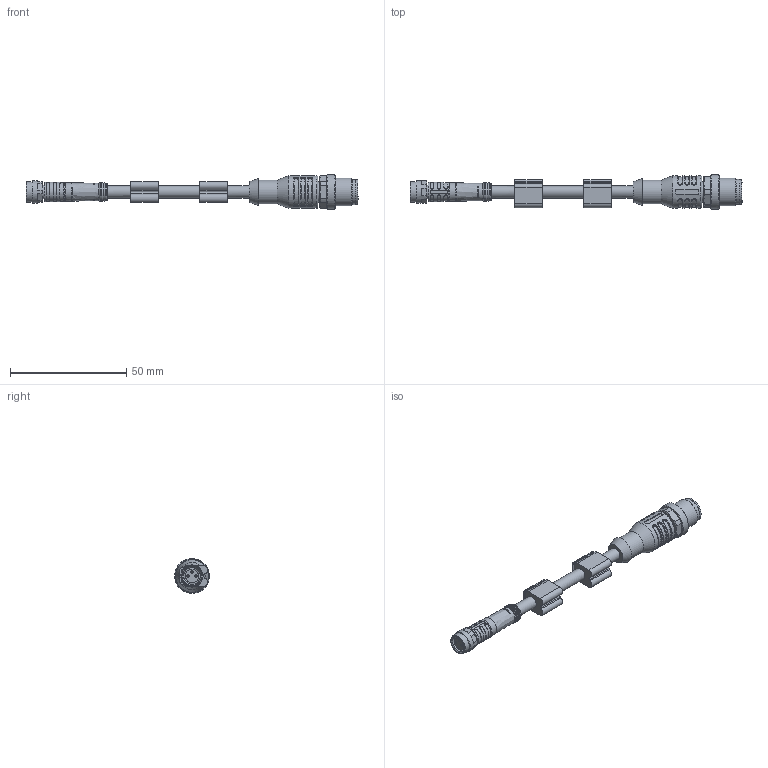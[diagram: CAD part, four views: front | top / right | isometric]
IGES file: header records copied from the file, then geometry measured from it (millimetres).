
Global section: file name: 153-13649_K3_L4-xM-PUR; native system: Autodesk Inventor 2018; preprocessor: unknown; date: 20191106.122925; units: millimetre
Bounding box: 143.09 x 14.98 x 14.96 mm (x, y, z)
Volume: 9800 mm3; surface area: 6187.6 mm2
Topology: 1 solids, 1 shells, 454 faces, 1201 edges, 788 vertices
Faces by surface type: bspline 454
